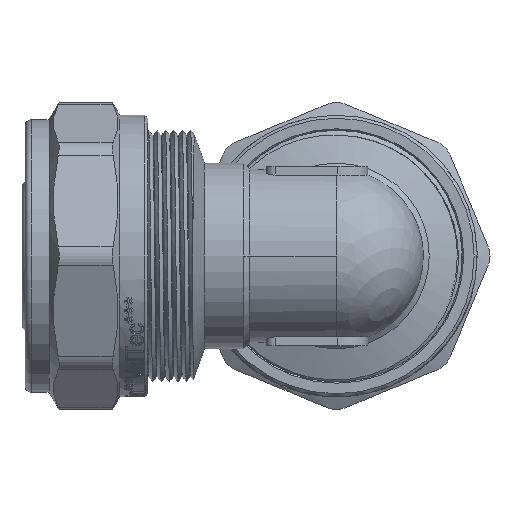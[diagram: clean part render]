
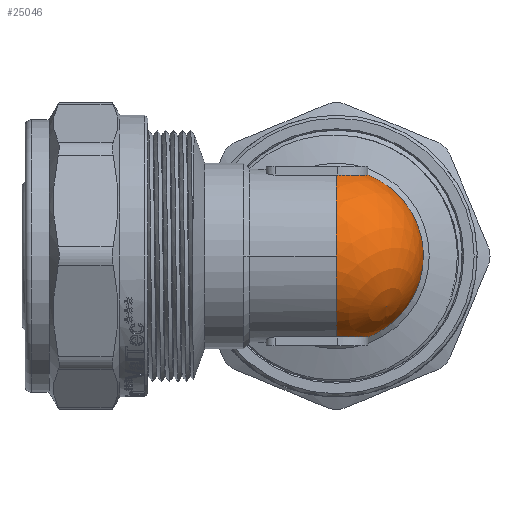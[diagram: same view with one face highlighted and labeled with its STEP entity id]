
A CAD part, left-side view. The second image highlights one B-rep face of the part: STEP entity #25046.
In plain terms, the highlighted spherical face has radius 14.5 mm.
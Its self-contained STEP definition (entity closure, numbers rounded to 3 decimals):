
#1372=SPHERICAL_SURFACE('',#26489,14.5);
#1410=CIRCLE('',#26359,14.5);
#1423=CIRCLE('',#26446,13.516);
#1425=CIRCLE('',#26452,13.516);
#1435=CIRCLE('',#26474,13.516);
#1437=CIRCLE('',#26478,13.516);
#1440=CIRCLE('',#26485,14.5);
#1441=CIRCLE('',#26486,14.5);
#1443=CIRCLE('',#26490,14.5);
#1444=CIRCLE('',#26491,14.5);
#2124=FACE_OUTER_BOUND('',#3540,.T.);
#3540=EDGE_LOOP('',(#17434,#17435,#17436,#17437,#17438,#17439,#17440,#17441,
#17442,#17443,#17444,#17445));
#5014=B_SPLINE_CURVE_WITH_KNOTS('',3,(#33299,#33300,#33301,#33302,#33303,
#33304,#33305,#33306,#33307,#33308),.UNSPECIFIED.,.F.,.F.,(4,2,2,2,4),(0.,
0.188,0.377,0.565,0.753),
 .UNSPECIFIED.);
#5020=B_SPLINE_CURVE_WITH_KNOTS('',3,(#33427,#33428,#33429,#33430,#33431,
#33432,#33433,#33434,#33435,#33436),.UNSPECIFIED.,.F.,.F.,(4,2,2,2,4),(-0.753,
-0.565,-0.377,-0.188,0.),
 .UNSPECIFIED.);
#10068=VERTEX_POINT('',#32117);
#10070=VERTEX_POINT('',#32120);
#10267=VERTEX_POINT('',#33277);
#10269=VERTEX_POINT('',#33280);
#10275=VERTEX_POINT('',#33298);
#10277=VERTEX_POINT('',#33313);
#10295=VERTEX_POINT('',#33418);
#10297=VERTEX_POINT('',#33422);
#10298=VERTEX_POINT('',#33426);
#10302=VERTEX_POINT('',#33463);
#10303=VERTEX_POINT('',#33470);
#12775=EDGE_CURVE('',#10070,#10068,#1410,.T.);
#13061=EDGE_CURVE('',#10269,#10267,#1423,.T.);
#13070=EDGE_CURVE('',#10275,#10269,#5014,.T.);
#13073=EDGE_CURVE('',#10277,#10275,#1425,.T.);
#13106=EDGE_CURVE('',#10295,#10297,#1435,.T.);
#13107=EDGE_CURVE('',#10297,#10298,#5020,.T.);
#13110=EDGE_CURVE('',#10298,#10070,#1437,.T.);
#13117=EDGE_CURVE('',#10302,#10295,#1440,.T.);
#13118=EDGE_CURVE('',#10267,#10302,#1441,.T.);
#13121=EDGE_CURVE('',#10068,#10277,#1443,.T.);
#13122=EDGE_CURVE('',#10302,#10303,#1444,.T.);
#17434=ORIENTED_EDGE('',*,*,#13106,.T.);
#17435=ORIENTED_EDGE('',*,*,#13107,.T.);
#17436=ORIENTED_EDGE('',*,*,#13110,.T.);
#17437=ORIENTED_EDGE('',*,*,#12775,.T.);
#17438=ORIENTED_EDGE('',*,*,#13121,.T.);
#17439=ORIENTED_EDGE('',*,*,#13073,.T.);
#17440=ORIENTED_EDGE('',*,*,#13070,.T.);
#17441=ORIENTED_EDGE('',*,*,#13061,.T.);
#17442=ORIENTED_EDGE('',*,*,#13118,.T.);
#17443=ORIENTED_EDGE('',*,*,#13122,.T.);
#17444=ORIENTED_EDGE('',*,*,#13122,.F.);
#17445=ORIENTED_EDGE('',*,*,#13117,.T.);
#25046=ADVANCED_FACE('',(#2124),#1372,.T.);
#26359=AXIS2_PLACEMENT_3D('',#32121,#27625,#27626);
#26446=AXIS2_PLACEMENT_3D('',#33281,#28002,#28003);
#26452=AXIS2_PLACEMENT_3D('',#33314,#28023,#28024);
#26474=AXIS2_PLACEMENT_3D('',#33424,#28085,#28086);
#26478=AXIS2_PLACEMENT_3D('',#33441,#28094,#28095);
#26485=AXIS2_PLACEMENT_3D('',#33464,#28111,#28112);
#26486=AXIS2_PLACEMENT_3D('',#33465,#28113,#28114);
#26489=AXIS2_PLACEMENT_3D('',#33468,#28119,#28120);
#26490=AXIS2_PLACEMENT_3D('',#33469,#28121,#28122);
#26491=AXIS2_PLACEMENT_3D('',#33471,#28123,#28124);
#27625=DIRECTION('center_axis',(0.,-1.,0.));
#27626=DIRECTION('ref_axis',(1.,0.,0.));
#28002=DIRECTION('center_axis',(0.,-1.,0.));
#28003=DIRECTION('ref_axis',(0.,0.,1.));
#28023=DIRECTION('center_axis',(-1.,0.,0.));
#28024=DIRECTION('ref_axis',(0.,0.,-1.));
#28085=DIRECTION('center_axis',(0.,-1.,0.));
#28086=DIRECTION('ref_axis',(0.,0.,1.));
#28094=DIRECTION('center_axis',(-1.,0.,0.));
#28095=DIRECTION('ref_axis',(0.,0.,-1.));
#28111=DIRECTION('center_axis',(-1.,0.,0.));
#28112=DIRECTION('ref_axis',(0.,0.,1.));
#28113=DIRECTION('center_axis',(-1.,0.,0.));
#28114=DIRECTION('ref_axis',(0.,0.,1.));
#28119=DIRECTION('center_axis',(0.577,0.577,0.577));
#28120=DIRECTION('ref_axis',(-0.707,0.,0.707));
#28121=DIRECTION('center_axis',(0.,-1.,0.));
#28122=DIRECTION('ref_axis',(1.,0.,0.));
#28123=DIRECTION('center_axis',(-0.408,0.816,-0.408));
#28124=DIRECTION('ref_axis',(0.707,0.,-0.707));
#32117=CARTESIAN_POINT('',(-14.5,0.,0.));
#32120=CARTESIAN_POINT('',(-5.25,0.,13.516));
#32121=CARTESIAN_POINT('Origin',(0.,0.,
0.));
#33277=CARTESIAN_POINT('',(0.,-5.25,-13.516));
#33280=CARTESIAN_POINT('',(-0.25,-5.25,-13.514));
#33281=CARTESIAN_POINT('Origin',(0.,-5.25,
0.));
#33298=CARTESIAN_POINT('',(-5.25,-0.25,-13.514));
#33299=CARTESIAN_POINT('Ctrl Pts',(-5.25,-0.25,-13.514));
#33300=CARTESIAN_POINT('Ctrl Pts',(-5.25,-0.878,-13.502));
#33301=CARTESIAN_POINT('Ctrl Pts',(-5.125,-1.547,
-13.492));
#33302=CARTESIAN_POINT('Ctrl Pts',(-4.614,-2.779,
-13.479));
#33303=CARTESIAN_POINT('Ctrl Pts',(-4.229,-3.342,-13.476));
#33304=CARTESIAN_POINT('Ctrl Pts',(-3.342,-4.229,
-13.476));
#33305=CARTESIAN_POINT('Ctrl Pts',(-2.779,-4.614,
-13.479));
#33306=CARTESIAN_POINT('Ctrl Pts',(-1.547,-5.125,
-13.492));
#33307=CARTESIAN_POINT('Ctrl Pts',(-0.878,-5.25,
-13.502));
#33308=CARTESIAN_POINT('Ctrl Pts',(-0.25,-5.25,
-13.514));
#33313=CARTESIAN_POINT('',(-5.25,0.,-13.516));
#33314=CARTESIAN_POINT('Origin',(-5.25,0.,0.));
#33418=CARTESIAN_POINT('',(0.,-5.25,13.516));
#33422=CARTESIAN_POINT('',(-0.25,-5.25,13.514));
#33424=CARTESIAN_POINT('Origin',(0.,-5.25,
0.));
#33426=CARTESIAN_POINT('',(-5.25,-0.25,13.514));
#33427=CARTESIAN_POINT('Ctrl Pts',(-0.25,-5.25,
13.514));
#33428=CARTESIAN_POINT('Ctrl Pts',(-0.878,-5.25,
13.502));
#33429=CARTESIAN_POINT('Ctrl Pts',(-1.547,-5.125,
13.492));
#33430=CARTESIAN_POINT('Ctrl Pts',(-2.779,-4.614,
13.479));
#33431=CARTESIAN_POINT('Ctrl Pts',(-3.342,-4.229,
13.476));
#33432=CARTESIAN_POINT('Ctrl Pts',(-4.229,-3.342,13.476));
#33433=CARTESIAN_POINT('Ctrl Pts',(-4.614,-2.779,
13.479));
#33434=CARTESIAN_POINT('Ctrl Pts',(-5.125,-1.547,
13.492));
#33435=CARTESIAN_POINT('Ctrl Pts',(-5.25,-0.878,13.502));
#33436=CARTESIAN_POINT('Ctrl Pts',(-5.25,-0.25,13.514));
#33441=CARTESIAN_POINT('Origin',(-5.25,0.,0.));
#33463=CARTESIAN_POINT('',(0.,-6.485,-12.969));
#33464=CARTESIAN_POINT('Origin',(0.,0.,
0.));
#33465=CARTESIAN_POINT('Origin',(0.,0.,
0.));
#33468=CARTESIAN_POINT('Origin',(0.,0.,
0.));
#33469=CARTESIAN_POINT('Origin',(0.,0.,
0.));
#33470=CARTESIAN_POINT('',(-8.372,-8.372,-8.372));
#33471=CARTESIAN_POINT('Origin',(0.,0.,
0.));
